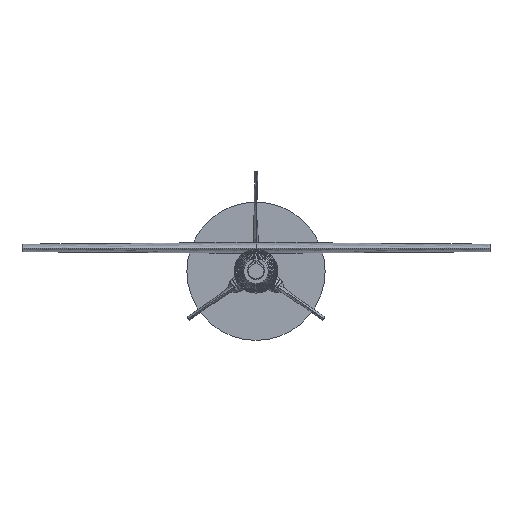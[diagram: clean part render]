
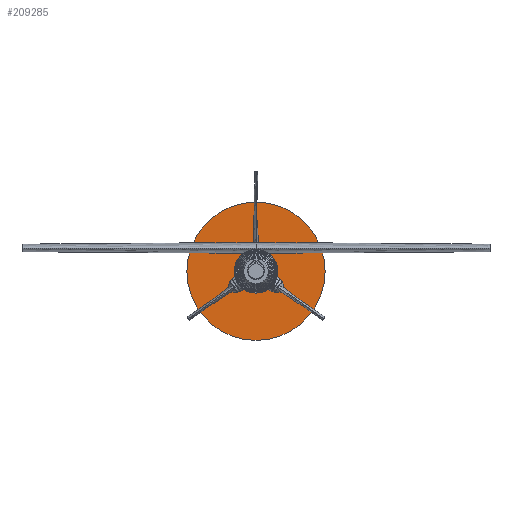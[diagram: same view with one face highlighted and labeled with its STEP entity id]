
A CAD part, left-side view. The second image highlights one B-rep face of the part: STEP entity #209285.
In plain terms, the highlighted planar face has unit normal (-1, 0, 0).
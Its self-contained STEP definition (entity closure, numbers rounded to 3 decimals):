
#209207 = CYLINDRICAL_SURFACE('',#209208,63.5);
#209208 = AXIS2_PLACEMENT_3D('',#209209,#209210,#209211);
#209209 = CARTESIAN_POINT('',(457.85,0.,0.));
#209210 = DIRECTION('',(1.,0.,0.));
#209211 = DIRECTION('',(-0.,0.,1.));
#209232 = VERTEX_POINT('',#209233);
#209233 = CARTESIAN_POINT('',(457.85,0.,63.5));
#209254 = EDGE_CURVE('',#209232,#209232,#209255,.T.);
#209255 = SURFACE_CURVE('',#209256,(#209261,#209268),.PCURVE_S1.);
#209256 = CIRCLE('',#209257,63.5);
#209257 = AXIS2_PLACEMENT_3D('',#209258,#209259,#209260);
#209258 = CARTESIAN_POINT('',(457.85,0.,0.));
#209259 = DIRECTION('',(1.,0.,0.));
#209260 = DIRECTION('',(-0.,0.,1.));
#209261 = PCURVE('',#209207,#209262);
#209262 = DEFINITIONAL_REPRESENTATION('',(#209263),#209267);
#209263 = LINE('',#209264,#209265);
#209264 = CARTESIAN_POINT('',(0.,0.));
#209265 = VECTOR('',#209266,1.);
#209266 = DIRECTION('',(1.,0.));
#209267 = ( GEOMETRIC_REPRESENTATION_CONTEXT(2) 
PARAMETRIC_REPRESENTATION_CONTEXT() REPRESENTATION_CONTEXT('2D SPACE',''
  ) );
#209268 = PCURVE('',#209269,#209274);
#209269 = PLANE('',#209270);
#209270 = AXIS2_PLACEMENT_3D('',#209271,#209272,#209273);
#209271 = CARTESIAN_POINT('',(457.85,0.,0.));
#209272 = DIRECTION('',(1.,0.,0.));
#209273 = DIRECTION('',(-0.,0.,1.));
#209274 = DEFINITIONAL_REPRESENTATION('',(#209275),#209279);
#209275 = CIRCLE('',#209276,63.5);
#209276 = AXIS2_PLACEMENT_2D('',#209277,#209278);
#209277 = CARTESIAN_POINT('',(0.,0.));
#209278 = DIRECTION('',(1.,0.));
#209279 = ( GEOMETRIC_REPRESENTATION_CONTEXT(2) 
PARAMETRIC_REPRESENTATION_CONTEXT() REPRESENTATION_CONTEXT('2D SPACE',''
  ) );
#209285 = ADVANCED_FACE('',(#209286),#209269,.F.);
#209286 = FACE_BOUND('',#209287,.T.);
#209287 = EDGE_LOOP('',(#209288));
#209288 = ORIENTED_EDGE('',*,*,#209254,.F.);
